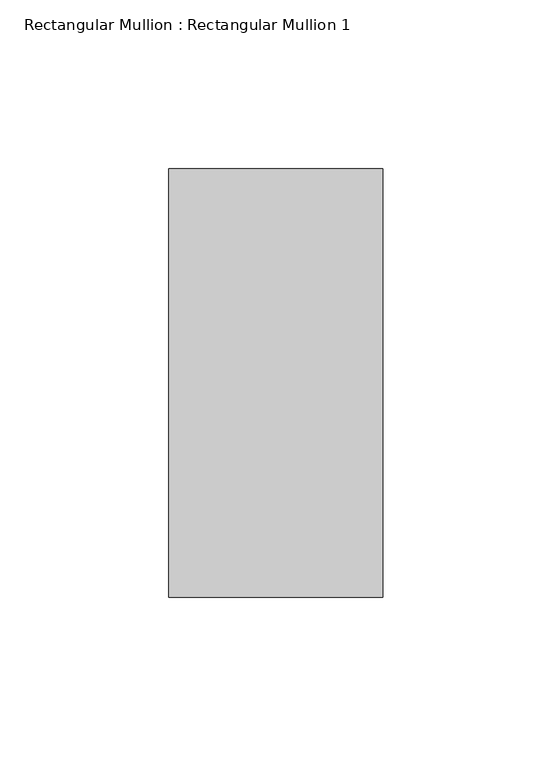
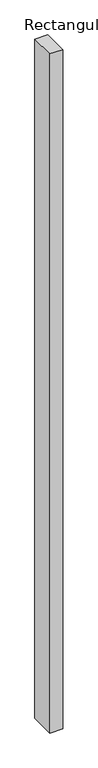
"""IFC4 building model written with IfcOpenShell, lengths in millimetres: member geometry, Rectangular Mullion : Rectangular Mullion 1."""

from ifc_helpers import new_model, si_unit, frame, origin, place, context, project, spatial, polyline, outline, extrude, source, transform, mapped, element, save


def rectangular_mullion_rectangular_mullion_1_45287f10(model_context):
    return source(origin(), model_context, "Body", "SweptSolid", [
        extrude(outline(polyline([(0.0, 63.5), (0.0, -63.5), (-63.5, -63.5), (-63.5, 63.5), (0.0, 63.5)])), frame((0.0, 0.0, -3533.2473635), z_axis=(0.0, 0.0, 1.0), x_axis=(1.0, 0.0, 0.0)), (0.0, 0.0, 1.0), 3533.2473635),
    ])


if __name__ == "__main__":
    model = new_model("IFC4")
    model_context = context("Model", 3, world=origin())
    ifc_project = project(units=[si_unit("LENGTHUNIT", "METRE", prefix="MILLI")], contexts=[model_context])
    site = spatial("IfcSite", under=ifc_project)
    building = spatial("IfcBuilding", under=site)
    placement = place(None, origin())
    rectangular_mullion_rectangular_mullion_1_shape = rectangular_mullion_rectangular_mullion_1_45287f10(model_context)
    element("IfcMember", 1, ObjectType="Rectangular Mullion : Rectangular Mullion 1", at=placement, inside=building, context=model_context, shape_type="MappedRepresentation", body=[
        mapped(rectangular_mullion_rectangular_mullion_1_shape, transform((0.0, 0.0, 0.0), x_axis=(1.0, 0.0, 0.0), y_axis=(0.0, 1.0, 0.0), z_axis=(0.0, 0.0, 1.0))),
    ])
    save(model, "model.ifc")
